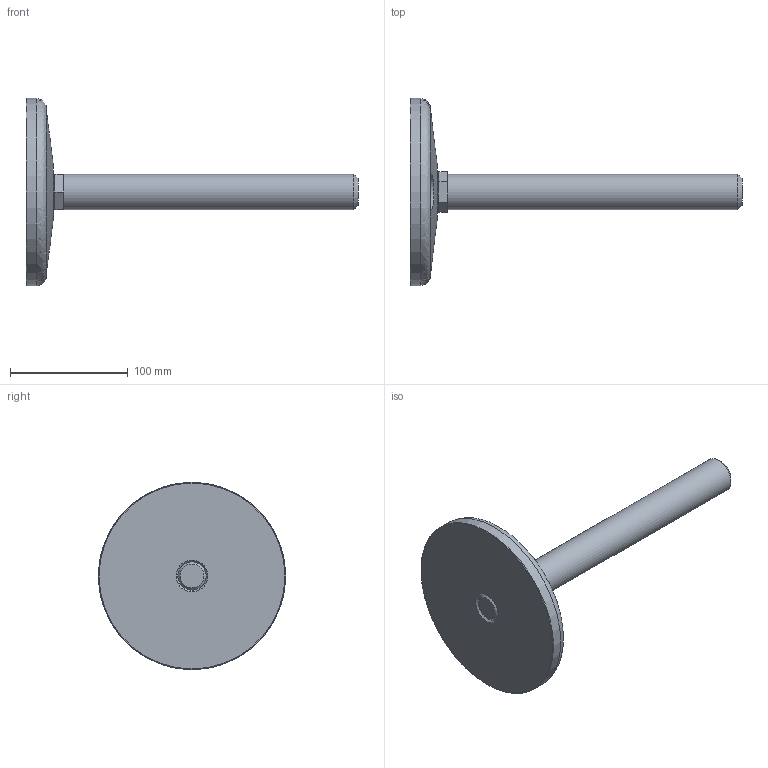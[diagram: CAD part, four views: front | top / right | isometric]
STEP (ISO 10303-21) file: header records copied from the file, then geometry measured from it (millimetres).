
FILE_DESCRIPTION(('STEP AP203'),'2;1');
FILE_NAME('12578.stp','2017-04-07T07:51:15',(''),(''),'2008.1.107','THINKDESIGN','');
FILE_SCHEMA(('CONFIG_CONTROL_DESIGN'));
Length unit declared in the file: millimetre
Bounding box: 282 x 159 x 159 mm (x, y, z)
Volume: 557375.6 mm3; surface area: 76035.6 mm2
Topology: 2 solids, 2 shells, 44 faces, 106 edges, 69 vertices
Faces by surface type: plane 21, cylinder 14, bspline 9
Full cylindrical faces by diameter (mm): 12.5 x2, 24 x2, 30 x1, 159 x1
Entity records: 2267 total; most frequent: CARTESIAN_POINT 1135, DIRECTION 221, ORIENTED_EDGE 212, EDGE_CURVE 106, AXIS2_PLACEMENT_3D 89, VERTEX_POINT 69, CIRCLE 54, EDGE_LOOP 49
